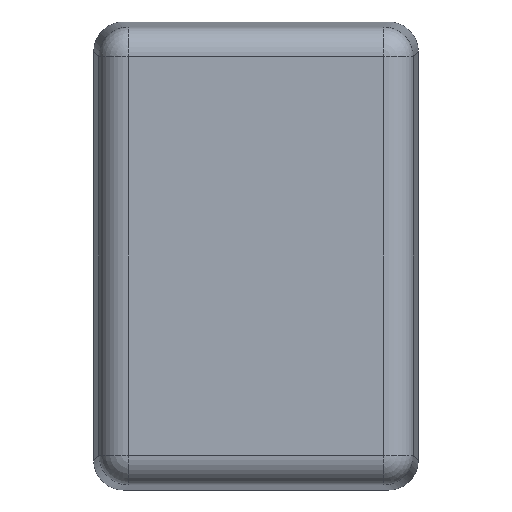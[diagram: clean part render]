
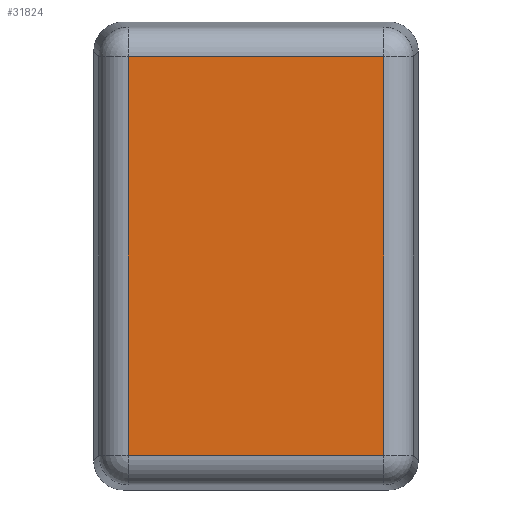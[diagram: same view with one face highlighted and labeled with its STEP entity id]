
A CAD part, front view. The second image highlights one B-rep face of the part: STEP entity #31824.
In plain terms, the highlighted planar face has unit normal (0, -1, 0).
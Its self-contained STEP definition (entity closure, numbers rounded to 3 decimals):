
#1115 = LINE ( 'NONE', #30074, #1622 ) ;
#1153 = ORIENTED_EDGE ( 'NONE', *, *, #33293, .T. ) ;
#1622 = VECTOR ( 'NONE', #11482, 1000. ) ;
#2817 = EDGE_CURVE ( 'NONE', #34499, #5549, #16962, .T. ) ;
#3301 = AXIS2_PLACEMENT_3D ( 'NONE', #26767, #39538, #24047 ) ;
#3766 = ORIENTED_EDGE ( 'NONE', *, *, #30138, .T. ) ;
#4400 = LINE ( 'NONE', #19273, #27177 ) ;
#5549 = VERTEX_POINT ( 'NONE', #38250 ) ;
#6568 = ORIENTED_EDGE ( 'NONE', *, *, #20628, .T. ) ;
#7304 = CARTESIAN_POINT ( 'NONE',  ( -10.862, -15., 16.962 ) ) ;
#10028 = DIRECTION ( 'NONE',  ( 1., 0., 0. ) ) ;
#11338 = ORIENTED_EDGE ( 'NONE', *, *, #2817, .T. ) ;
#11482 = DIRECTION ( 'NONE',  ( -1., 0., 0. ) ) ;
#13458 = LINE ( 'NONE', #30851, #13960 ) ;
#13960 = VECTOR ( 'NONE', #15670, 1000. ) ;
#14756 = DIRECTION ( 'NONE',  ( 0., 0., 1. ) ) ;
#15670 = DIRECTION ( 'NONE',  ( 0., 0., -1. ) ) ;
#16962 = LINE ( 'NONE', #20597, #31500 ) ;
#19273 = CARTESIAN_POINT ( 'NONE',  ( 13.276, -15., -16.962 ) ) ;
#20597 = CARTESIAN_POINT ( 'NONE',  ( 10.862, -15., 19.376 ) ) ;
#20628 = EDGE_CURVE ( 'NONE', #32495, #28552, #13458, .T. ) ;
#23308 = EDGE_LOOP ( 'NONE', ( #6568, #1153, #11338, #3766 ) ) ;
#24047 = DIRECTION ( 'NONE',  ( 0., 0., 1. ) ) ;
#26767 = CARTESIAN_POINT ( 'NONE',  ( 0., -15., 0. ) ) ;
#27177 = VECTOR ( 'NONE', #10028, 1000. ) ;
#28217 = CARTESIAN_POINT ( 'NONE',  ( -10.862, -15., -16.962 ) ) ;
#28552 = VERTEX_POINT ( 'NONE', #28217 ) ;
#30057 = CARTESIAN_POINT ( 'NONE',  ( 10.862, -15., -16.962 ) ) ;
#30074 = CARTESIAN_POINT ( 'NONE',  ( -13.276, -15., 16.962 ) ) ;
#30138 = EDGE_CURVE ( 'NONE', #5549, #32495, #1115, .T. ) ;
#30851 = CARTESIAN_POINT ( 'NONE',  ( -10.862, -15., -19.376 ) ) ;
#31500 = VECTOR ( 'NONE', #14756, 1000. ) ;
#31824 = ADVANCED_FACE ( 'NONE', ( #32079 ), #36036, .F. ) ;
#32079 = FACE_OUTER_BOUND ( 'NONE', #23308, .T. ) ;
#32495 = VERTEX_POINT ( 'NONE', #7304 ) ;
#33293 = EDGE_CURVE ( 'NONE', #28552, #34499, #4400, .T. ) ;
#34499 = VERTEX_POINT ( 'NONE', #30057 ) ;
#36036 = PLANE ( 'NONE',  #3301 ) ;
#38250 = CARTESIAN_POINT ( 'NONE',  ( 10.862, -15., 16.962 ) ) ;
#39538 = DIRECTION ( 'NONE',  ( 0., 1., 0. ) ) ;
